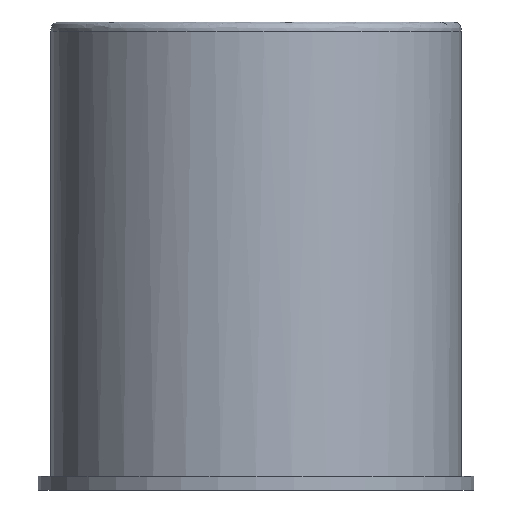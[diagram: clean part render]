
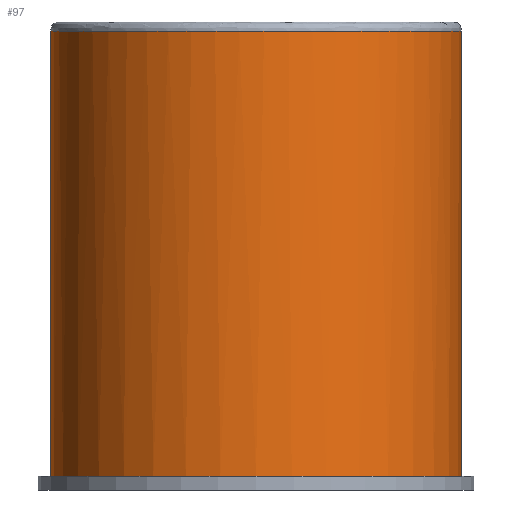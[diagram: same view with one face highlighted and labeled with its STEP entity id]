
A CAD part, front view. The second image highlights one B-rep face of the part: STEP entity #97.
In plain terms, the highlighted cylindrical face has radius 44.75 mm (diameter 89.5 mm), a full revolution.
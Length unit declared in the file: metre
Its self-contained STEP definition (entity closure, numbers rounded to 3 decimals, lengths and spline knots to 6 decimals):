
#15=B_SPLINE_CURVE_WITH_KNOTS('',3,(#184,#185,#186,#187,#188,#189,#190,
#191,#192,#193,#194,#195,#196,#197,#198,#199,#200,#201,#202),
 .UNSPECIFIED.,.T.,.F.,(1,1,1,1,1,1,1,1,1,1,1,1,1,1,1,1,1,1,1,1,1,1,1),
(-0.1875,-0.125,-0.0625,0.,0.0625,0.125,0.1875,0.25,0.3125,0.375,0.4375,
0.5,0.5625,0.625,0.6875,0.75,0.8125,0.875,0.9375,1.,1.0625,1.125,1.1875),
 .UNSPECIFIED.);
#30=ORIENTED_EDGE('',*,*,#43,.T.);
#31=ORIENTED_EDGE('',*,*,#40,.T.);
#40=EDGE_CURVE('',#48,#48,#56,.T.);
#43=EDGE_CURVE('',#51,#51,#15,.T.);
#48=VERTEX_POINT('',#158);
#51=VERTEX_POINT('',#203);
#56=CIRCLE('',#119,0.04475);
#66=EDGE_LOOP('',(#30));
#67=EDGE_LOOP('',(#31));
#82=FACE_BOUND('',#66,.T.);
#83=FACE_BOUND('',#67,.T.);
#92=CYLINDRICAL_SURFACE('',#123,0.04475);
#97=ADVANCED_FACE('',(#82,#83),#92,.T.);
#119=AXIS2_PLACEMENT_3D('',#157,#136,#137);
#123=AXIS2_PLACEMENT_3D('',#183,#144,#145);
#136=DIRECTION('',(0.,0.,1.));
#137=DIRECTION('',(1.,0.,0.));
#144=DIRECTION('',(0.,0.,-1.));
#145=DIRECTION('',(-1.,0.,0.));
#157=CARTESIAN_POINT('',(0.,0.,0.003));
#158=CARTESIAN_POINT('',(0.04475,0.,0.003));
#183=CARTESIAN_POINT('',(0.,0.,0.1));
#184=CARTESIAN_POINT('',(0.04242,0.017571,0.1));
#185=CARTESIAN_POINT('',(0.045915,0.,0.1));
#186=CARTESIAN_POINT('',(0.04242,-0.017571,0.1));
#187=CARTESIAN_POINT('',(0.032467,-0.032467,0.1));
#188=CARTESIAN_POINT('',(0.017571,-0.04242,0.1));
#189=CARTESIAN_POINT('',(0.,-0.045915,0.1));
#190=CARTESIAN_POINT('',(-0.017571,-0.04242,0.1));
#191=CARTESIAN_POINT('',(-0.032467,-0.032467,0.1));
#192=CARTESIAN_POINT('',(-0.04242,-0.017571,0.1));
#193=CARTESIAN_POINT('',(-0.045915,0.,0.1));
#194=CARTESIAN_POINT('',(-0.04242,0.017571,0.1));
#195=CARTESIAN_POINT('',(-0.032467,0.032467,0.1));
#196=CARTESIAN_POINT('',(-0.017571,0.04242,0.1));
#197=CARTESIAN_POINT('',(0.,0.045915,0.1));
#198=CARTESIAN_POINT('',(0.017571,0.04242,0.1));
#199=CARTESIAN_POINT('',(0.032467,0.032467,0.1));
#200=CARTESIAN_POINT('',(0.04242,0.017571,0.1));
#201=CARTESIAN_POINT('',(0.045915,0.,0.1));
#202=CARTESIAN_POINT('',(0.04242,-0.017571,0.1));
#203=CARTESIAN_POINT('',(0.04475,0.,0.1));
